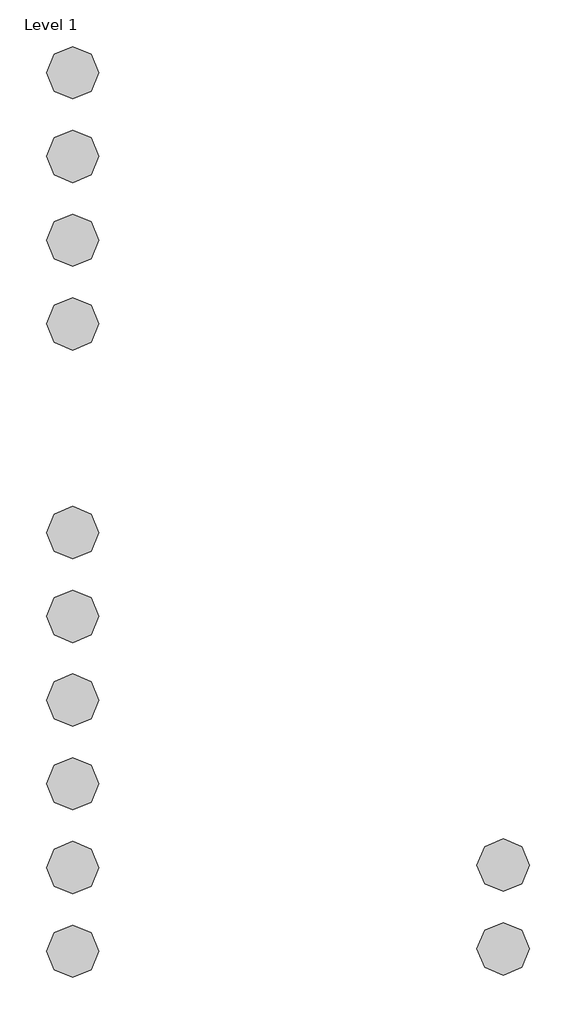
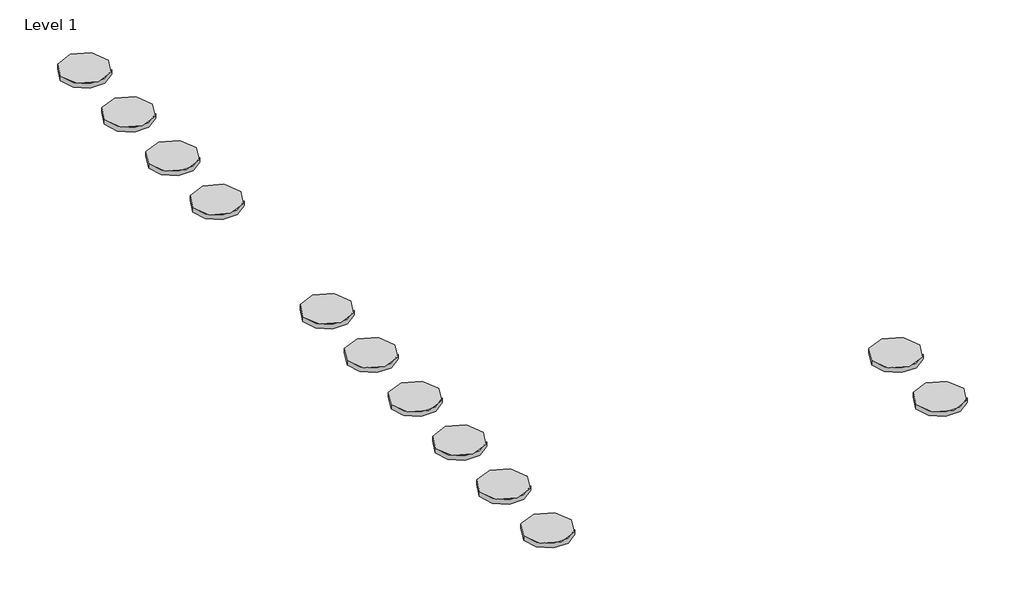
# One storey, incomplete: 12 proxies.
"""IFC4 building model written with IfcOpenShell, lengths in millimetres."""

from ifc_helpers import new_model, si_unit, origin, place, context, project, spatial, transform, mapped, element, save
from components import materialmodel_materialmodel_ac00f72a

model = new_model("IFC4")

# Units and contexts
model_context = context("Model", 3, world=origin())
ifc_project = project(units=[si_unit("LENGTHUNIT", "METRE", prefix="MILLI")], contexts=[model_context])

# Site, building, storey
site = spatial("IfcSite", under=ifc_project)
building = spatial("IfcBuilding", under=site)
storey = spatial("IfcBuildingStorey", under=building, Name="Level 1", Elevation=0.0)

# Proxies
placement = place(None, origin())
materialmodel_materialmodel_shape = materialmodel_materialmodel_ac00f72a(model_context)
element("IfcBuildingElementProxy", 1, Name="MaterialModel : MaterialModel", ObjectType="MaterialModel : MaterialModel", at=placement, inside=storey, context=model_context, shape_type="MappedRepresentation", body=[
    mapped(materialmodel_materialmodel_shape, transform((-8678.692475, 3895.5093533, 0.0), x_axis=(1.0, 0.0, 0.0), y_axis=(0.0, 1.0, 0.0), z_axis=(0.0, 0.0, 1.0))),
])
element("IfcBuildingElementProxy", 2, Name="MaterialModel : MaterialModel", ObjectType="MaterialModel : MaterialModel", at=placement, inside=storey, context=model_context, shape_type="MappedRepresentation", body=[
    mapped(materialmodel_materialmodel_shape, transform((-8678.692475, 3575.5093533, 0.0), x_axis=(1.0, 0.0, 0.0), y_axis=(0.0, 1.0, 0.0), z_axis=(0.0, 0.0, 1.0))),
])
element("IfcBuildingElementProxy", 3, Name="MaterialModel : MaterialModel", ObjectType="MaterialModel : MaterialModel", at=placement, inside=storey, context=model_context, shape_type="MappedRepresentation", body=[
    mapped(materialmodel_materialmodel_shape, transform((-10325.5786717, 4846.2117265, 0.0), x_axis=(1.0, 0.0, 0.0), y_axis=(0.0, 1.0, 0.0), z_axis=(0.0, 0.0, 1.0))),
])
element("IfcBuildingElementProxy", 4, Name="MaterialModel : MaterialModel", ObjectType="MaterialModel : MaterialModel", at=placement, inside=storey, context=model_context, shape_type="MappedRepresentation", body=[
    mapped(materialmodel_materialmodel_shape, transform((-10325.5786717, 4526.2117265, 0.0), x_axis=(1.0, 0.0, 0.0), y_axis=(0.0, 1.0, 0.0), z_axis=(0.0, 0.0, 1.0))),
])
element("IfcBuildingElementProxy", 5, Name="MaterialModel : MaterialModel", ObjectType="MaterialModel : MaterialModel", at=placement, inside=storey, context=model_context, shape_type="MappedRepresentation", body=[
    mapped(materialmodel_materialmodel_shape, transform((-10325.5786717, 3886.2117265, 0.0), x_axis=(1.0, 0.0, 0.0), y_axis=(0.0, 1.0, 0.0), z_axis=(0.0, 0.0, 1.0))),
])
element("IfcBuildingElementProxy", 6, Name="MaterialModel : MaterialModel", ObjectType="MaterialModel : MaterialModel", at=placement, inside=storey, context=model_context, shape_type="MappedRepresentation", body=[
    mapped(materialmodel_materialmodel_shape, transform((-10325.5786717, 4206.2117265, 0.0), x_axis=(1.0, 0.0, 0.0), y_axis=(0.0, 1.0, 0.0), z_axis=(0.0, 0.0, 1.0))),
])
element("IfcBuildingElementProxy", 7, Name="MaterialModel : MaterialModel", ObjectType="MaterialModel : MaterialModel", at=placement, inside=storey, context=model_context, shape_type="MappedRepresentation", body=[
    mapped(materialmodel_materialmodel_shape, transform((-10325.5786717, 3566.2117265, 0.0), x_axis=(1.0, 0.0, 0.0), y_axis=(0.0, 1.0, 0.0), z_axis=(0.0, 0.0, 1.0))),
])
element("IfcBuildingElementProxy", 8, Name="MaterialModel : MaterialModel", ObjectType="MaterialModel : MaterialModel", at=placement, inside=storey, context=model_context, shape_type="MappedRepresentation", body=[
    mapped(materialmodel_materialmodel_shape, transform((-10325.5786717, 5166.2117265, 0.0), x_axis=(1.0, 0.0, 0.0), y_axis=(0.0, 1.0, 0.0), z_axis=(0.0, 0.0, 1.0))),
])
element("IfcBuildingElementProxy", 9, Name="MaterialModel : MaterialModel", ObjectType="MaterialModel : MaterialModel", at=placement, inside=storey, context=model_context, shape_type="MappedRepresentation", body=[
    mapped(materialmodel_materialmodel_shape, transform((-10325.5786717, 6923.9762754, 0.0), x_axis=(1.0, 0.0, 0.0), y_axis=(0.0, 1.0, 0.0), z_axis=(0.0, 0.0, 1.0))),
])
element("IfcBuildingElementProxy", 10, Name="MaterialModel : MaterialModel", ObjectType="MaterialModel : MaterialModel", at=placement, inside=storey, context=model_context, shape_type="MappedRepresentation", body=[
    mapped(materialmodel_materialmodel_shape, transform((-10325.5786717, 6603.9762754, 0.0), x_axis=(1.0, 0.0, 0.0), y_axis=(0.0, 1.0, 0.0), z_axis=(0.0, 0.0, 1.0))),
])
element("IfcBuildingElementProxy", 11, Name="MaterialModel : MaterialModel", ObjectType="MaterialModel : MaterialModel", at=placement, inside=storey, context=model_context, shape_type="MappedRepresentation", body=[
    mapped(materialmodel_materialmodel_shape, transform((-10325.5786717, 6283.9762754, 0.0), x_axis=(1.0, 0.0, 0.0), y_axis=(0.0, 1.0, 0.0), z_axis=(0.0, 0.0, 1.0))),
])
element("IfcBuildingElementProxy", 12, Name="MaterialModel : MaterialModel", ObjectType="MaterialModel : MaterialModel", at=placement, inside=storey, context=model_context, shape_type="MappedRepresentation", body=[
    mapped(materialmodel_materialmodel_shape, transform((-10325.5786717, 5963.9762754, 0.0), x_axis=(1.0, 0.0, 0.0), y_axis=(0.0, 1.0, 0.0), z_axis=(0.0, 0.0, 1.0))),
])

save(model, "model.ifc")
